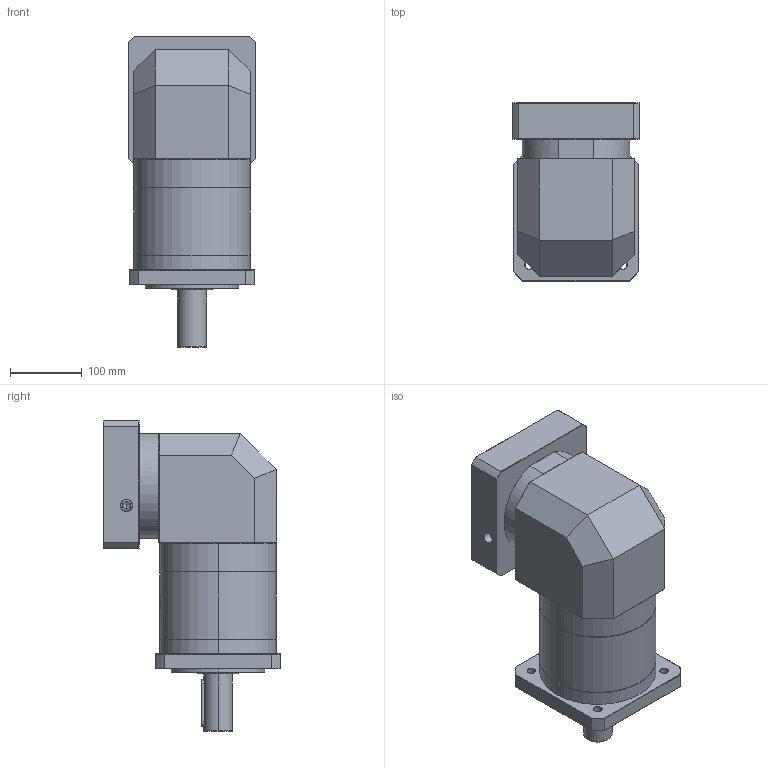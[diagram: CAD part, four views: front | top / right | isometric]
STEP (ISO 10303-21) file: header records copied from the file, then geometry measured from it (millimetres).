
FILE_DESCRIPTION (( 'STEP AP214' ), '1' );
FILE_NAME ('ZFR160A-D40-L3-P2-35-114.3-200-M12.step', '2023-09-03T08:59:41', ( '' ), ( '' ), 'SwSTEP 2.0', 'SolidWorks 2016', '' );
FILE_SCHEMA (( 'AUTOMOTIVE_DESIGN' ));
Length unit declared in the file: millimetre
Products named in the file (1): ZFR160A-D40-L3-P2-35-114.3-200-M12
Bounding box: 178 x 247.5 x 432.7 mm (x, y, z)
Volume: 8747467.5 mm3; surface area: 507223 mm2
Topology: 6 solids, 6 shells, 2198 faces, 5807 edges, 3717 vertices
Faces by surface type: plane 1046, bspline 410, cylinder 406, cone 314, torus 22
Entity records: 125047 total; most frequent: CARTESIAN_POINT 51763, ORIENTED_EDGE 11554, DIRECTION 8386, EDGE_CURVE 5777, VERTEX_POINT 3717, LINE 3092, VECTOR 3092, AXIS2_PLACEMENT_3D 2647
